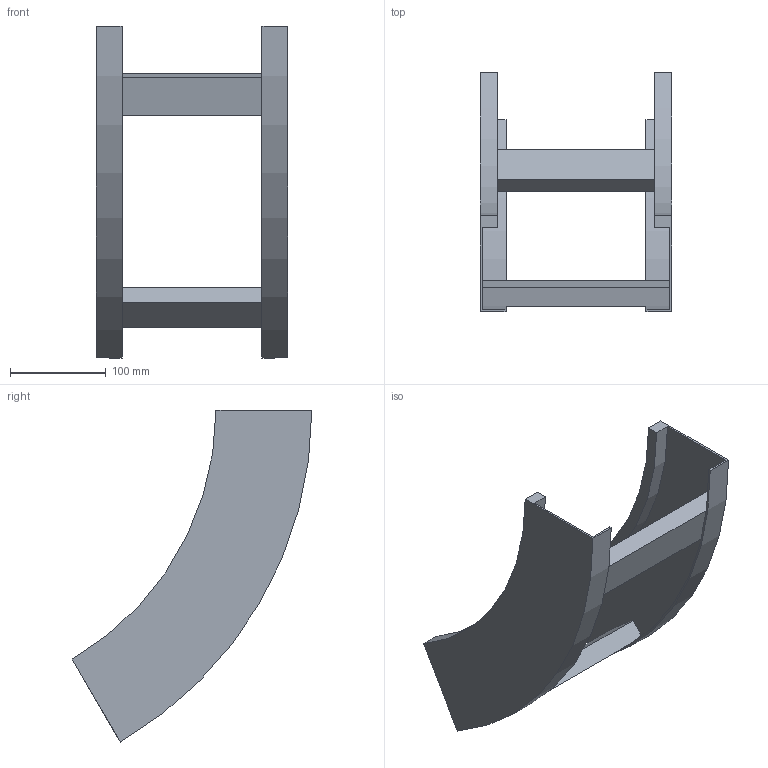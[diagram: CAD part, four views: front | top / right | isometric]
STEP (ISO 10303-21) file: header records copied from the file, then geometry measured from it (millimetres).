
FILE_DESCRIPTION (( 'STEP AP214' ), '1' );
FILE_NAME ('B2X40B3J200XX.step', '2025-03-20T10:15:24', ( '' ), ( '' ), 'SwSTEP 2.0', 'SolidWorks 2023', '' );
FILE_SCHEMA (( 'AUTOMOTIVE_DESIGN' ));
Length unit declared in the file: millimetre
Products named in the file (3): B2_LONGH.SALITA_60°_H112.5_R300; TRAVERSINO_200; B2X40B3J200XX
Assembly tree (4 placements, depth 2):
  B2X40B3J200XX
    B2_LONGH.SALITA_60°_H112.5_R300  x2
    TRAVERSINO_200  x2
Bounding box: 200 x 250 x 346.41 mm (x, y, z)
Volume: 628960.7 mm3; surface area: 264271.3 mm2
Topology: 4 solids, 4 shells, 32 faces, 72 edges, 48 vertices
Faces by surface type: plane 24, cylinder 8
Entity records: 552 total; most frequent: DIRECTION 90, CARTESIAN_POINT 83, ORIENTED_EDGE 72, EDGE_CURVE 36, AXIS2_PLACEMENT_3D 31, VECTOR 28, LINE 28, VERTEX_POINT 24
